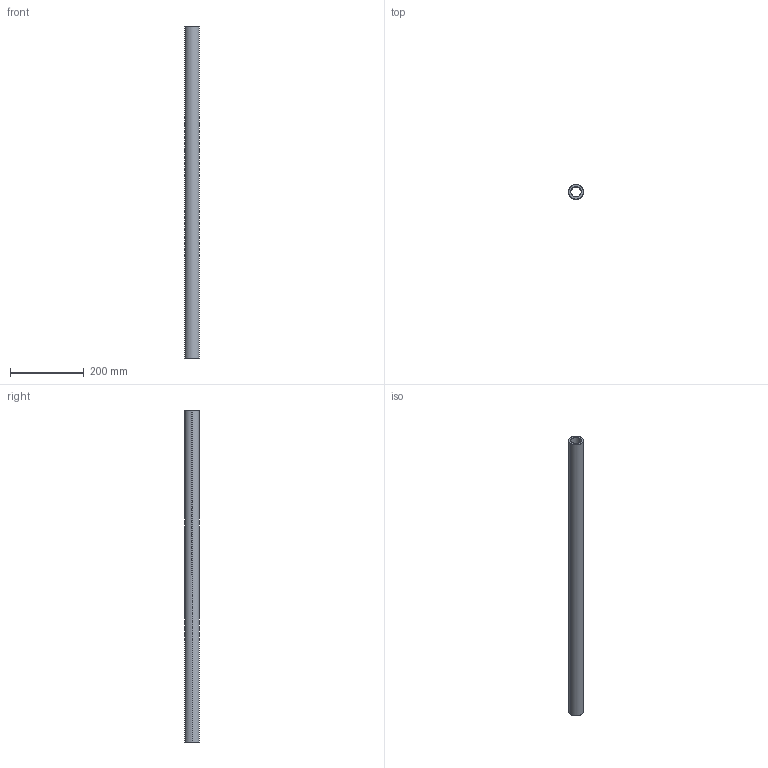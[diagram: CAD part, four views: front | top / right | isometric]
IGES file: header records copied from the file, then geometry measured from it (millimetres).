
Start section: SolidWorks IGES file using analytic representation for surfaces
Global section: file name: C:\Users\IanO\Desktop\L1771_v2\L1771.40_v2\L1771.40_v2_20230705_IGES\L1771.40-0900.igs; native system: SolidWorks 2019; preprocessor: SolidWorks 2019; author: IanO; date: 230705.160246; units: millimetre
Bounding box: 40 x 40 x 900 mm (x, y, z)
Surface area: 193547.2 mm2 (no closed solid volume)
Topology: 0 solids, 0 shells, 6 faces, 272 edges, 272 vertices
Faces by surface type: revolution 4, bspline 2
